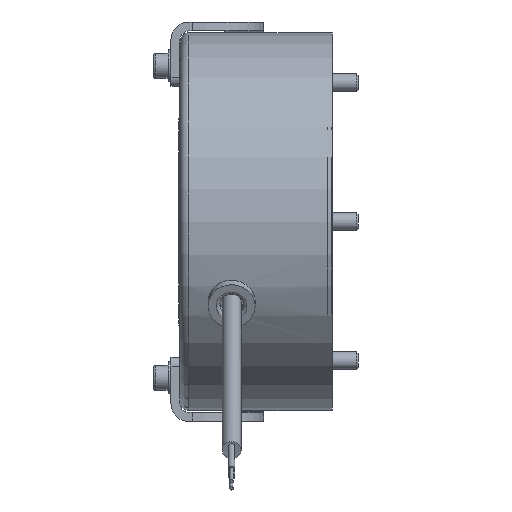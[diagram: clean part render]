
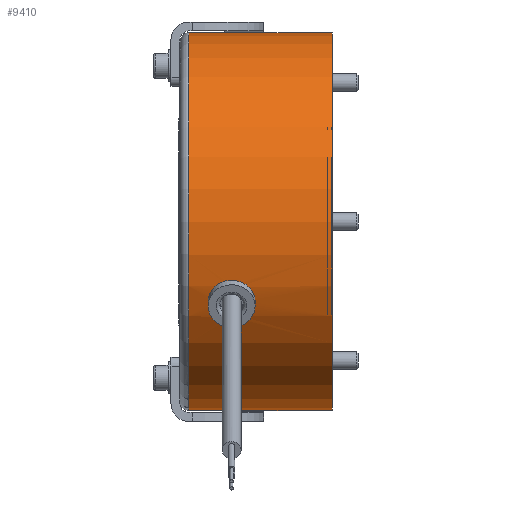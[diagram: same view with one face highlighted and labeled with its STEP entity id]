
A CAD part, front view. The second image highlights one B-rep face of the part: STEP entity #9410.
In plain terms, the highlighted cylindrical face has radius 53 mm (diameter 106 mm), a full revolution.
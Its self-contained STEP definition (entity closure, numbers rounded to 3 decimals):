
#232=B_SPLINE_CURVE_WITH_KNOTS('',3,(#15092,#15093,#15094,#15095,#15096,
#15097,#15098,#15099,#15100,#15101,#15102,#15103,#15104,#15105,#15106,#15107,
#15108,#15109),.UNSPECIFIED.,.F.,.F.,(4,2,2,2,2,2,2,2,4),(0.767,
0.959,1.151,1.342,1.534,1.725,
1.917,2.109,2.301),.UNSPECIFIED.);
#233=B_SPLINE_CURVE_WITH_KNOTS('',3,(#15112,#15113,#15114,#15115,#15116,
#15117,#15118,#15119,#15120,#15121,#15122,#15123,#15124,#15125,#15126,#15127,
#15128,#15129,#15130),.UNSPECIFIED.,.F.,.F.,(4,2,2,2,3,2,2,2,4),(2.301,
2.493,2.684,2.876,3.068,3.259,
3.451,3.643,3.835),.UNSPECIFIED.);
#393=FACE_BOUND('',#1284,.T.);
#747=FACE_OUTER_BOUND('',#1283,.T.);
#1283=EDGE_LOOP('',(#6495,#6496,#6497,#6498,#6499,#6500,#6501));
#1284=EDGE_LOOP('',(#6502,#6503,#6504,#6505,#6506,#6507));
#1839=LINE('',#15209,#2358);
#1840=LINE('',#15215,#2359);
#1841=LINE('',#15216,#2360);
#2358=VECTOR('',#11671,53.);
#2359=VECTOR('',#11678,10.);
#2360=VECTOR('',#11679,10.);
#2932=CIRCLE('',#10125,53.);
#2933=CIRCLE('',#10126,53.);
#2934=CIRCLE('',#10127,53.);
#2935=CIRCLE('',#10128,53.);
#2936=CIRCLE('',#10129,53.);
#3597=VERTEX_POINT('',#15090);
#3598=VERTEX_POINT('',#15091);
#3599=VERTEX_POINT('',#15133);
#3600=VERTEX_POINT('',#15135);
#3611=VERTEX_POINT('',#15204);
#3612=VERTEX_POINT('',#15205);
#3613=VERTEX_POINT('',#15208);
#3614=VERTEX_POINT('',#15210);
#3615=VERTEX_POINT('',#15212);
#4668=EDGE_CURVE('',#3597,#3598,#232,.T.);
#4670=EDGE_CURVE('',#3598,#3597,#233,.T.);
#4689=EDGE_CURVE('',#3611,#3612,#2932,.T.);
#4690=EDGE_CURVE('',#3612,#3611,#2933,.T.);
#4691=EDGE_CURVE('',#3612,#3613,#1839,.T.);
#4692=EDGE_CURVE('',#3614,#3613,#2934,.T.);
#4693=EDGE_CURVE('',#3615,#3614,#2935,.T.);
#4694=EDGE_CURVE('',#3613,#3615,#2936,.T.);
#4695=EDGE_CURVE('',#3598,#3600,#1840,.T.);
#4696=EDGE_CURVE('',#3599,#3597,#1841,.T.);
#6495=ORIENTED_EDGE('',*,*,#4689,.F.);
#6496=ORIENTED_EDGE('',*,*,#4690,.F.);
#6497=ORIENTED_EDGE('',*,*,#4691,.T.);
#6498=ORIENTED_EDGE('',*,*,#4692,.F.);
#6499=ORIENTED_EDGE('',*,*,#4693,.F.);
#6500=ORIENTED_EDGE('',*,*,#4694,.F.);
#6501=ORIENTED_EDGE('',*,*,#4691,.F.);
#6502=ORIENTED_EDGE('',*,*,#4695,.T.);
#6503=ORIENTED_EDGE('',*,*,#4695,.F.);
#6504=ORIENTED_EDGE('',*,*,#4670,.T.);
#6505=ORIENTED_EDGE('',*,*,#4696,.F.);
#6506=ORIENTED_EDGE('',*,*,#4696,.T.);
#6507=ORIENTED_EDGE('',*,*,#4668,.T.);
#8573=CYLINDRICAL_SURFACE('',#10124,53.);
#9410=ADVANCED_FACE('',(#747,#393),#8573,.T.);
#10124=AXIS2_PLACEMENT_3D('',#15203,#11665,#11666);
#10125=AXIS2_PLACEMENT_3D('',#15206,#11667,#11668);
#10126=AXIS2_PLACEMENT_3D('',#15207,#11669,#11670);
#10127=AXIS2_PLACEMENT_3D('',#15211,#11672,#11673);
#10128=AXIS2_PLACEMENT_3D('',#15213,#11674,#11675);
#10129=AXIS2_PLACEMENT_3D('',#15214,#11676,#11677);
#11665=DIRECTION('center_axis',(1.,0.,0.));
#11666=DIRECTION('ref_axis',(0.,1.,0.));
#11667=DIRECTION('center_axis',(1.,0.,0.));
#11668=DIRECTION('ref_axis',(0.,1.,0.));
#11669=DIRECTION('center_axis',(1.,0.,0.));
#11670=DIRECTION('ref_axis',(0.,1.,0.));
#11671=DIRECTION('',(-1.,0.,0.));
#11672=DIRECTION('center_axis',(-1.,0.,0.));
#11673=DIRECTION('ref_axis',(0.,-1.,0.));
#11674=DIRECTION('center_axis',(-1.,0.,0.));
#11675=DIRECTION('ref_axis',(0.,-1.,0.));
#11676=DIRECTION('center_axis',(-1.,0.,0.));
#11677=DIRECTION('ref_axis',(0.,-1.,0.));
#11678=DIRECTION('',(1.,0.,0.));
#11679=DIRECTION('',(1.,0.,0.));
#15090=CARTESIAN_POINT('',(-33.3,-48.034,-22.399));
#15091=CARTESIAN_POINT('',(-23.1,-48.034,-22.399));
#15092=CARTESIAN_POINT('Ctrl Pts',(-33.3,-48.034,-22.399));
#15093=CARTESIAN_POINT('Ctrl Pts',(-33.3,-48.305,-21.819));
#15094=CARTESIAN_POINT('Ctrl Pts',(-33.171,-48.581,
-21.196));
#15095=CARTESIAN_POINT('Ctrl Pts',(-32.648,-49.068,
-20.042));
#15096=CARTESIAN_POINT('Ctrl Pts',(-32.254,-49.28,-19.511));
#15097=CARTESIAN_POINT('Ctrl Pts',(-31.347,-49.604,-18.671));
#15098=CARTESIAN_POINT('Ctrl Pts',(-30.774,-49.739,
-18.305));
#15099=CARTESIAN_POINT('Ctrl Pts',(-29.52,-49.916,
-17.818));
#15100=CARTESIAN_POINT('Ctrl Pts',(-28.839,-49.958,-17.698));
#15101=CARTESIAN_POINT('Ctrl Pts',(-27.561,-49.958,-17.698));
#15102=CARTESIAN_POINT('Ctrl Pts',(-26.88,-49.916,
-17.818));
#15103=CARTESIAN_POINT('Ctrl Pts',(-25.626,-49.739,
-18.305));
#15104=CARTESIAN_POINT('Ctrl Pts',(-25.053,-49.604,-18.671));
#15105=CARTESIAN_POINT('Ctrl Pts',(-24.146,-49.28,
-19.511));
#15106=CARTESIAN_POINT('Ctrl Pts',(-23.752,-49.068,
-20.042));
#15107=CARTESIAN_POINT('Ctrl Pts',(-23.229,-48.581,
-21.196));
#15108=CARTESIAN_POINT('Ctrl Pts',(-23.1,-48.305,-21.819));
#15109=CARTESIAN_POINT('Ctrl Pts',(-23.1,-48.034,-22.399));
#15112=CARTESIAN_POINT('Ctrl Pts',(-23.1,-48.034,-22.399));
#15113=CARTESIAN_POINT('Ctrl Pts',(-23.1,-47.764,-22.978));
#15114=CARTESIAN_POINT('Ctrl Pts',(-23.229,-47.465,
-23.591));
#15115=CARTESIAN_POINT('Ctrl Pts',(-23.752,-46.894,
-24.706));
#15116=CARTESIAN_POINT('Ctrl Pts',(-24.146,-46.623,
-25.209));
#15117=CARTESIAN_POINT('Ctrl Pts',(-25.053,-46.188,-25.998));
#15118=CARTESIAN_POINT('Ctrl Pts',(-25.626,-45.994,
-26.336));
#15119=CARTESIAN_POINT('Ctrl Pts',(-26.88,-45.735,
-26.784));
#15120=CARTESIAN_POINT('Ctrl Pts',(-27.561,-45.67,
-26.894));
#15121=CARTESIAN_POINT('Ctrl Pts',(-28.2,-45.67,-26.894));
#15122=CARTESIAN_POINT('Ctrl Pts',(-28.839,-45.67,
-26.894));
#15123=CARTESIAN_POINT('Ctrl Pts',(-29.52,-45.735,
-26.784));
#15124=CARTESIAN_POINT('Ctrl Pts',(-30.774,-45.994,
-26.336));
#15125=CARTESIAN_POINT('Ctrl Pts',(-31.347,-46.188,-25.998));
#15126=CARTESIAN_POINT('Ctrl Pts',(-32.254,-46.623,
-25.209));
#15127=CARTESIAN_POINT('Ctrl Pts',(-32.648,-46.894,
-24.706));
#15128=CARTESIAN_POINT('Ctrl Pts',(-33.171,-47.465,
-23.591));
#15129=CARTESIAN_POINT('Ctrl Pts',(-33.3,-47.764,-22.978));
#15130=CARTESIAN_POINT('Ctrl Pts',(-33.3,-48.034,-22.399));
#15133=CARTESIAN_POINT('',(-34.8,-48.034,-22.399));
#15135=CARTESIAN_POINT('',(-21.6,-48.034,-22.399));
#15203=CARTESIAN_POINT('Origin',(-21.35,0.,0.));
#15204=CARTESIAN_POINT('',(0.,53.,0.));
#15205=CARTESIAN_POINT('',(0.,-53.,0.));
#15206=CARTESIAN_POINT('Origin',(0.,0.,0.));
#15207=CARTESIAN_POINT('Origin',(0.,0.,0.));
#15208=CARTESIAN_POINT('',(-40.2,-53.,0.));
#15209=CARTESIAN_POINT('',(-21.35,-53.,0.));
#15210=CARTESIAN_POINT('',(-40.2,53.,0.));
#15211=CARTESIAN_POINT('Origin',(-40.2,0.,0.));
#15212=CARTESIAN_POINT('',(-40.2,0.,53.));
#15213=CARTESIAN_POINT('Origin',(-40.2,0.,0.));
#15214=CARTESIAN_POINT('Origin',(-40.2,0.,0.));
#15215=CARTESIAN_POINT('',(-21.35,-48.034,-22.399));
#15216=CARTESIAN_POINT('',(-21.35,-48.034,-22.399));
